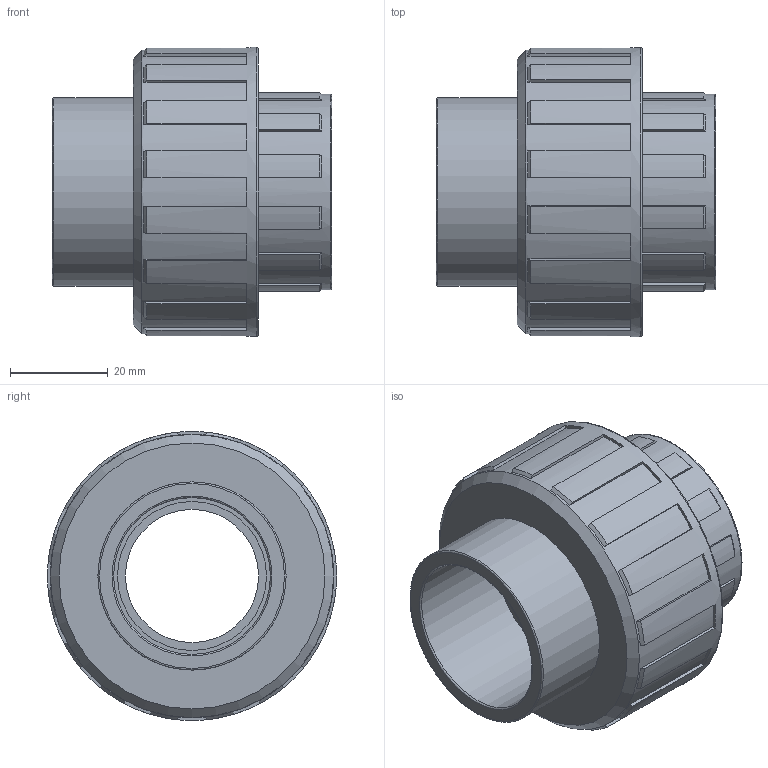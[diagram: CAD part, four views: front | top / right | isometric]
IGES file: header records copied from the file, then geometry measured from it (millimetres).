
Global section: file name: 050802032010.ipt; native system: Autodesk Inventor 2015; preprocessor: unknown; author: KIM; date: 20171207.164948; units: millimetre
Bounding box: 57 x 59 x 59 mm (x, y, z)
Volume: 65279.6 mm3; surface area: 18500.1 mm2
Topology: 1 solids, 1 shells, 133 faces, 390 edges, 264 vertices
Faces by surface type: plane 79, cone 29, cylinder 16, revolution 9
Full cylindrical faces by diameter (mm): 38.4 x1, 40 x1, 57.82 x1, 59 x1
